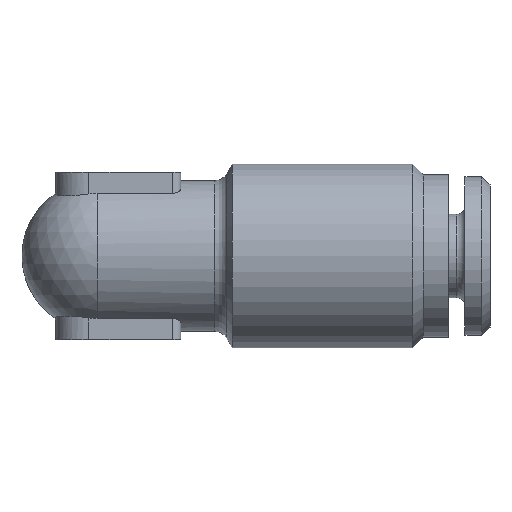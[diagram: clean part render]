
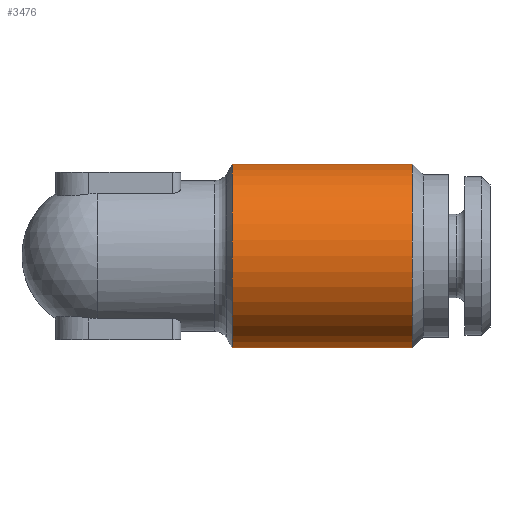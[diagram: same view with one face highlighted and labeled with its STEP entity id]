
A CAD part, top view. The second image highlights one B-rep face of the part: STEP entity #3476.
In plain terms, the highlighted cylindrical face has radius 5.5 mm (diameter 11 mm), a full revolution.
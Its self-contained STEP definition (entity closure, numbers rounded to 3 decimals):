
#1563=ORIENTED_EDGE('',*,*,#1939,.T.);
#1564=ORIENTED_EDGE('',*,*,#1940,.F.);
#1740=CIRCLE('',#3353,5.5);
#1741=CIRCLE('',#3355,5.5);
#1831=VERTEX_POINT('',#3011);
#1832=VERTEX_POINT('',#3014);
#1939=EDGE_CURVE('',#1831,#1831,#1740,.T.);
#1940=EDGE_CURVE('',#1832,#1832,#1741,.T.);
#2041=EDGE_LOOP('',(#1563));
#2042=EDGE_LOOP('',(#1564));
#2151=FACE_BOUND('',#2041,.T.);
#2152=FACE_BOUND('',#2042,.T.);
#2367=DIRECTION('',(1.,0.,0.));
#2368=DIRECTION('',(0.,5.5,0.));
#2369=DIRECTION('',(-1.,0.,0.));
#2370=DIRECTION('',(0.,1.,0.));
#2371=DIRECTION('',(1.,0.,0.));
#2372=DIRECTION('',(0.,5.5,0.));
#3011=CARTESIAN_POINT('',(29.838,20.274,0.));
#3012=CARTESIAN_POINT('',(29.838,14.774,0.));
#3013=CARTESIAN_POINT('',(40.611,14.774,0.));
#3014=CARTESIAN_POINT('',(40.611,20.274,0.));
#3015=CARTESIAN_POINT('',(40.611,14.774,0.));
#3353=AXIS2_PLACEMENT_3D('',#3012,#2367,#2368);
#3354=AXIS2_PLACEMENT_3D('',#3013,#2369,#2370);
#3355=AXIS2_PLACEMENT_3D('',#3015,#2371,#2372);
#3431=CYLINDRICAL_SURFACE('',#3354,5.5);
#3476=ADVANCED_FACE('',(#2151,#2152),#3431,.T.);
